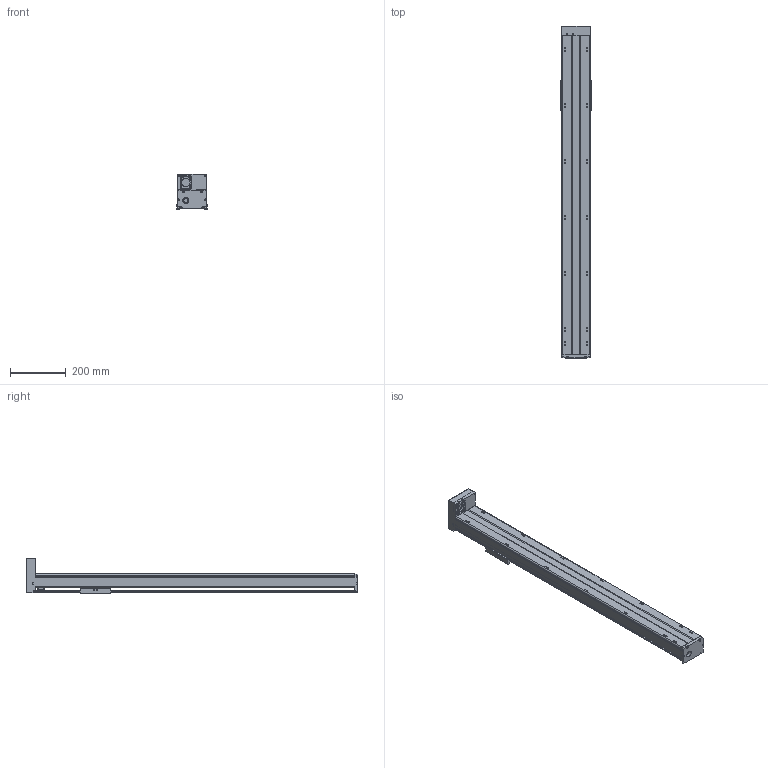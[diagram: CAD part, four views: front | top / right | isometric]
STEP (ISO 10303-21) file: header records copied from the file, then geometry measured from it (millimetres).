
FILE_DESCRIPTION(/* description */ (''),/* implementation_level */ '2;1');
FILE_NAME(/* name */ 'TKA100-FD-950_asm1.stp',/* time_stamp */ '2016-05-16T15:32:07+08:00',/* author */ (''),/* organization */ (''),/* preprocessor_version */ 'ST-DEVELOPER v15',/* originating_system */ 'SIEMENS PLM Software NX 8.5',/* authorisation */ '');
FILE_SCHEMA (('AUTOMOTIVE_DESIGN { 1 0 10303 214 3 1 1 1 }'));
Length unit declared in the file: millimetre
Products named in the file (3): 200-02; 200-01; TKA100-FD-950_asm1
Assembly tree (2 placements, depth 2):
  TKA100-FD-950_asm1
    200-01
    200-02
Bounding box: 110 x 1186 x 127 mm (x, y, z)
Volume: 2444135 mm3; surface area: 849825.4 mm2
Topology: 2 solids, 13 shells, 811 faces, 2094 edges, 1362 vertices
Faces by surface type: cylinder 317, plane 303, cone 127, torus 38, bspline 26
Full cylindrical faces by diameter (mm): 2.5 x6, 2.6 x8, 3.3 x10, 3.4 x10, 3.8 x8, 4.2 x23, 4.3 x4, 4.5 x8, 5 x1, 5.5 x24, 6.6 x4, 8 x5, 9 x4, 10 x16, 11 x4, 12 x7, 15.3 x1, 16 x1, 22 x1, 24 x1, 28 x4, 30 x1, 33 x1
Entity records: 28764 total; most frequent: CARTESIAN_POINT 10095, DIRECTION 3902, ORIENTED_EDGE 3508, EDGE_CURVE 1754, AXIS2_PLACEMENT_3D 1570, VERTEX_POINT 1268, EDGE_LOOP 1176, ADVANCED_FACE 811
